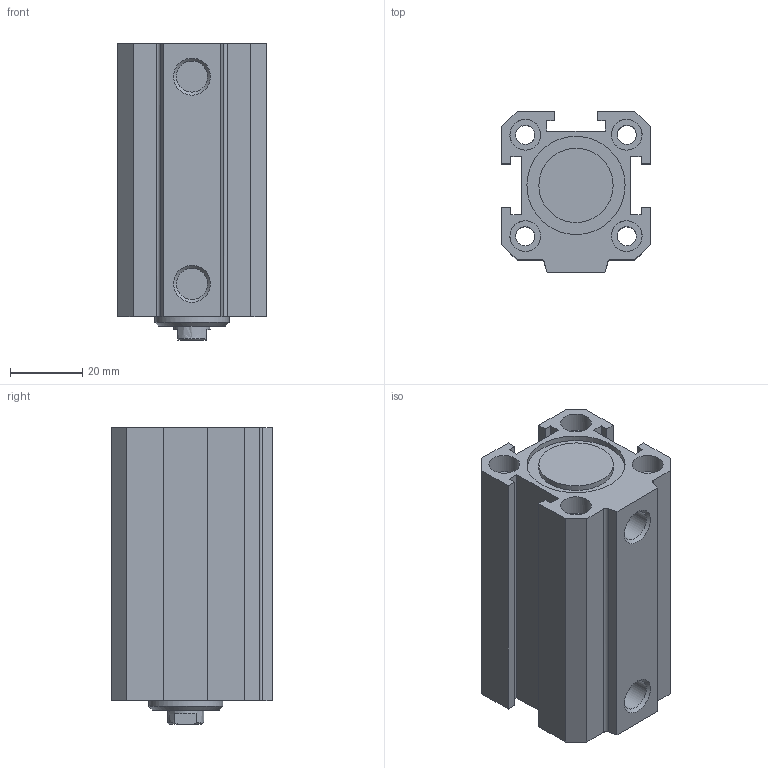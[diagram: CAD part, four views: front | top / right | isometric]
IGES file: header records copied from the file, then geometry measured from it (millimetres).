
Global section: file name: 1511_25_0040; native system: Autodesk Inventor 2014; preprocessor: unknown; author: A. Manieri; date: 20160824.111913; units: millimetre
Bounding box: 41 x 44.5 x 82 mm (x, y, z)
Volume: 85296.3 mm3; surface area: 34912.8 mm2
Topology: 2 solids, 2 shells, 93 faces, 241 edges, 170 vertices
Faces by surface type: bspline 93
